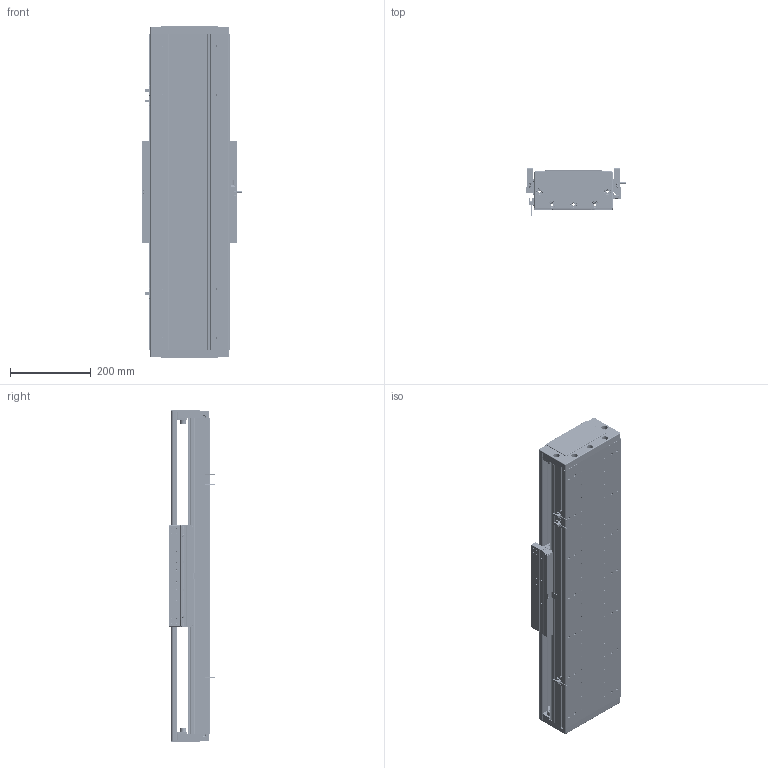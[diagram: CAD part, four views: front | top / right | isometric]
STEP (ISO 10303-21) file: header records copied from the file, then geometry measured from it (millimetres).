
FILE_DESCRIPTION (( 'STEP AP203' ), '1' );
FILE_NAME ('DA-C195-C3-T480-C010-0.2 眻盄萇儂.STEP', '2025-08-15T01:43:41', ( '' ), ( '' ), 'SwSTEP 2.0', 'SolidWorks 2019', '' );
FILE_SCHEMA (( 'CONFIG_CONTROL_DESIGN' ));
Length unit declared in the file: millimetre
Products named in the file (12): 葩璃 DA95-GT-T-00; 66156-0001-003-00 裔啣; DA-C195-C3-T480-C010-0.2 眻盄萇儂; IU-CU195-L-00 菁釱(L780); PM-T45ㄗ侂狟ㄘ; DA95-HXJ-00 遣喳砎蝶; IU-CU195-L 菁釱絳寢; LMT黍杅芛; DA195-DG-H-00  端盖（压铸镂空版）; DA165-GYP-00 光电感应片(默认); CU195-C3賑輸-俋楷; MS200 棠掑喜S315-T240
Assembly tree (20 placements, depth 3):
  DA-C195-C3-T480-C010-0.2 眻盄萇儂
    IU-CU195-L 菁釱絳寢
      IU-CU195-L-00 菁釱(L780)
      葩璃 DA95-GT-T-00  x4
    LMT黍杅芛
    MS200 棠掑喜S315-T240
    PM-T45ㄗ侂狟ㄘ  x3
    DA165-GYP-00 光电感应片(默认)
    DA195-DG-H-00  端盖（压铸镂空版）  x2
    DA95-HXJ-00 遣喳砎蝶  x4
    66156-0001-003-00 裔啣
    CU195-C3賑輸-俋楷
Bounding box: 248 x 115.6 x 820 mm (x, y, z)
Volume: 6586475 mm3; surface area: 1839995.8 mm2
Topology: 78 solids, 118 shells, 5047 faces, 12784 edges, 7747 vertices
Faces by surface type: cylinder 2120, plane 1593, bspline 710, cone 544, torus 44, sphere 36
Entity records: 136483 total; most frequent: CARTESIAN_POINT 41829, ORIENTED_EDGE 19654, DIRECTION 19078, EDGE_CURVE 9827, AXIS2_PLACEMENT_3D 7083, VERTEX_POINT 6177, LINE 4912, VECTOR 4912
